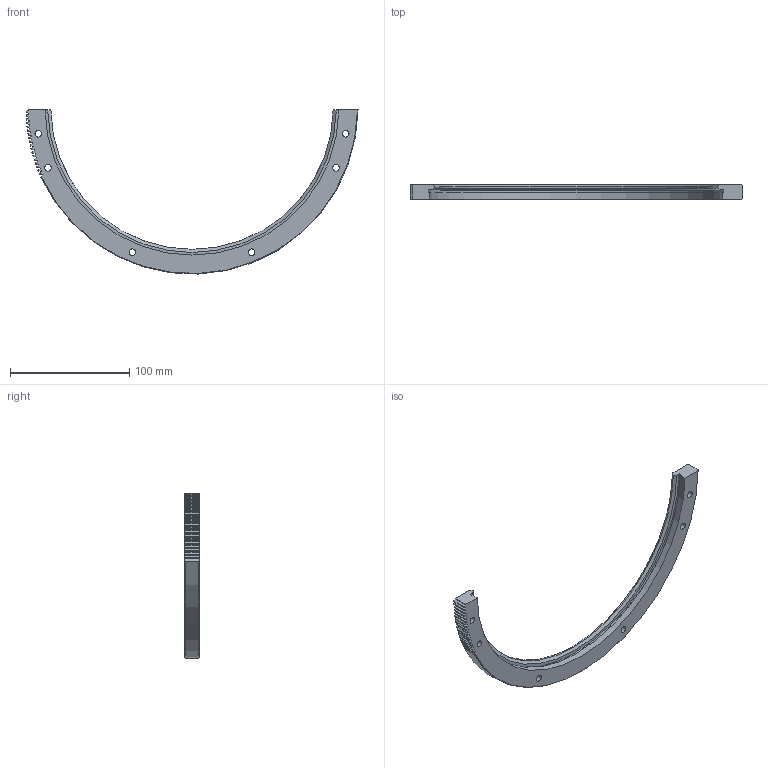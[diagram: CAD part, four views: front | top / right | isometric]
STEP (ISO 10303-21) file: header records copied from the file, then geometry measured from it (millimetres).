
FILE_DESCRIPTION( ( 'STEP AP203' ), '1' );
FILE_NAME( 'p:/temp/worker_28/temp/exporttempdir_920_634_40hyd/format_0/TRIS 278 R180 P .stp', '2021-09-17T07:47:51', ( 'License CC BY-ND 4.0' ), ( 'CADENAS' ), ' ', 'PARTsolutions', ' ' );
FILE_SCHEMA( ( 'CONFIG_CONTROL_DESIGN' ) );
Length unit declared in the file: millimetre
Products named in the file (1): _TRIS 278 R180 P 
Bounding box: 277.97 x 12.25 x 137.39 mm (x, y, z)
Volume: 81624 mm3; surface area: 28287.2 mm2
Topology: 1 solids, 1 shells, 142 faces, 402 edges, 268 vertices
Faces by surface type: cylinder 52, plane 49, cone 40, torus 1
Full cylindrical faces by diameter (mm): 5.5 x6, 10 x6
Entity records: 4754 total; most frequent: CARTESIAN_POINT 1059, ORIENTED_EDGE 780, DIRECTION 740, EDGE_CURVE 390, AXIS2_PLACEMENT_3D 289, VERTEX_POINT 268, EDGE_LOOP 172, LINE 162
